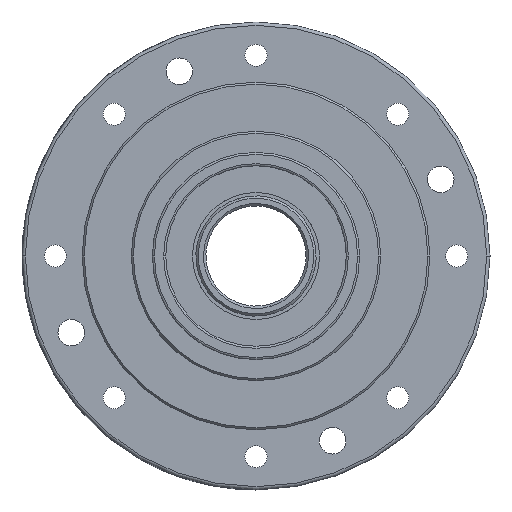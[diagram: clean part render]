
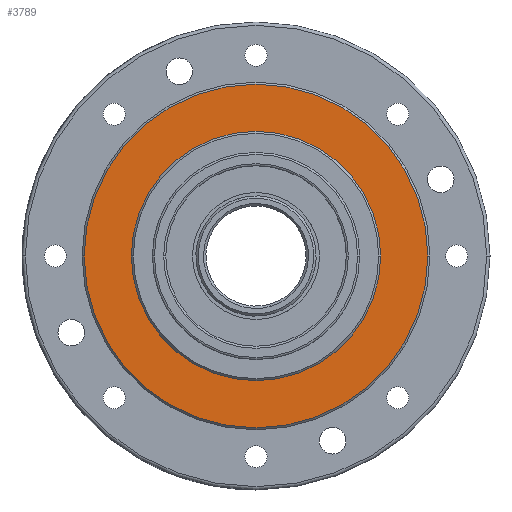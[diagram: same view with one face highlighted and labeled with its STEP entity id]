
A CAD part, left-side view. The second image highlights one B-rep face of the part: STEP entity #3789.
In plain terms, the highlighted planar face has unit normal (-1, 0, 0).
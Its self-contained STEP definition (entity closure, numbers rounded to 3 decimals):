
#269 = EDGE_CURVE ( 'NONE', #12483, #8691, #8428, .T. ) ;
#298 = DIRECTION ( 'NONE',  ( 0., 1., 0. ) ) ;
#468 = ORIENTED_EDGE ( 'NONE', *, *, #19249, .T. ) ;
#640 = CARTESIAN_POINT ( 'NONE',  ( -8., 18.645, 0. ) ) ;
#742 = CARTESIAN_POINT ( 'NONE',  ( -8., 0., 0. ) ) ;
#800 = DIRECTION ( 'NONE',  ( 0., 1., 0. ) ) ;
#1452 = EDGE_CURVE ( 'NONE', #8691, #12483, #10100, .T. ) ;
#3789 = ADVANCED_FACE ( 'NONE', ( #8006, #19605 ), #19706, .T. ) ;
#4149 = ORIENTED_EDGE ( 'NONE', *, *, #1452, .F. ) ;
#4296 = AXIS2_PLACEMENT_3D ( 'NONE', #18381, #8605, #10443 ) ;
#5015 = CARTESIAN_POINT ( 'NONE',  ( -8., 25.7, 0. ) ) ;
#5327 = EDGE_CURVE ( 'NONE', #12983, #6289, #14154, .T. ) ;
#6270 = DIRECTION ( 'NONE',  ( 0., 1., 0. ) ) ;
#6289 = VERTEX_POINT ( 'NONE', #15035 ) ;
#6454 = CARTESIAN_POINT ( 'NONE',  ( -8., -18.645, 0. ) ) ;
#8006 = FACE_OUTER_BOUND ( 'NONE', #14609, .T. ) ;
#8273 = CARTESIAN_POINT ( 'NONE',  ( -8., 0., 0. ) ) ;
#8345 = CIRCLE ( 'NONE', #20472, 25.7 ) ;
#8428 = CIRCLE ( 'NONE', #4296, 18.645 ) ;
#8605 = DIRECTION ( 'NONE',  ( -1., 0., 0. ) ) ;
#8691 = VERTEX_POINT ( 'NONE', #6454 ) ;
#10100 = CIRCLE ( 'NONE', #18447, 18.645 ) ;
#10443 = DIRECTION ( 'NONE',  ( 0., 1., 0. ) ) ;
#11422 = EDGE_LOOP ( 'NONE', ( #16608, #4149 ) ) ;
#12483 = VERTEX_POINT ( 'NONE', #640 ) ;
#12983 = VERTEX_POINT ( 'NONE', #5015 ) ;
#13592 = AXIS2_PLACEMENT_3D ( 'NONE', #19507, #21328, #6270 ) ;
#14154 = CIRCLE ( 'NONE', #20057, 25.7 ) ;
#14609 = EDGE_LOOP ( 'NONE', ( #468, #19076 ) ) ;
#15035 = CARTESIAN_POINT ( 'NONE',  ( -8., -25.7, 0. ) ) ;
#15154 = DIRECTION ( 'NONE',  ( -1., 0., 0. ) ) ;
#16074 = CARTESIAN_POINT ( 'NONE',  ( -8., 0., 0. ) ) ;
#16608 = ORIENTED_EDGE ( 'NONE', *, *, #269, .F. ) ;
#16628 = DIRECTION ( 'NONE',  ( 0., 1., 0. ) ) ;
#18260 = DIRECTION ( 'NONE',  ( -1., 0., 0. ) ) ;
#18381 = CARTESIAN_POINT ( 'NONE',  ( -8., 0., 0. ) ) ;
#18447 = AXIS2_PLACEMENT_3D ( 'NONE', #742, #15154, #298 ) ;
#19076 = ORIENTED_EDGE ( 'NONE', *, *, #5327, .T. ) ;
#19222 = DIRECTION ( 'NONE',  ( -1., 0., 0. ) ) ;
#19249 = EDGE_CURVE ( 'NONE', #6289, #12983, #8345, .T. ) ;
#19507 = CARTESIAN_POINT ( 'NONE',  ( -8., 0., -18.645 ) ) ;
#19605 = FACE_BOUND ( 'NONE', #11422, .T. ) ;
#19706 = PLANE ( 'NONE',  #13592 ) ;
#20057 = AXIS2_PLACEMENT_3D ( 'NONE', #16074, #19222, #800 ) ;
#20472 = AXIS2_PLACEMENT_3D ( 'NONE', #8273, #18260, #16628 ) ;
#21328 = DIRECTION ( 'NONE',  ( -1., 0., 0. ) ) ;
